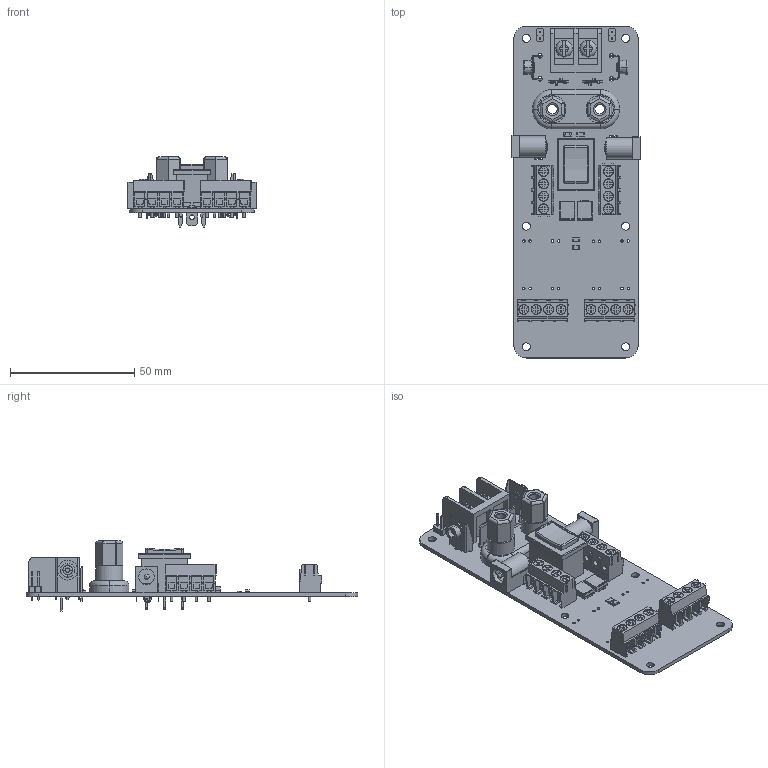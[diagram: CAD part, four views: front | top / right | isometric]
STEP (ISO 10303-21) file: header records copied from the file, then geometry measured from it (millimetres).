
FILE_DESCRIPTION(('KiCad electronic assembly'),'2;1');
FILE_NAME('Power Chunk PCB.step','2025-01-03T08:52:36',('Pcbnew'),( 'Kicad'),'Open CASCADE STEP processor 7.8','KiCad to STEP converter' ,'Unknown');
FILE_SCHEMA(('AUTOMOTIVE_DESIGN { 1 0 10303 214 1 1 1 1 }'));
Length unit declared in the file: millimetre
Products named in the file (24): Power Chunk PCB 1; LED_1206_3216Metric; BATTERY CONTACT 593 SNAP 9V PC PIN; 593; Barrier Strip 2POS 9.5mm Pitch; Barrier Strip 2POS 9.5mm Pitch v5; R_1206_3216Metric; BarrelJack_Horizontal; TerminalBlock_Phoenix_PT-1,5-4-5.0-H_1x04_P5.00mm_Horizontal; TerminalBlock_Phoenix_PT_15_4_50_H_1x04_P500mm_Horizontal; D_SMC; CONN QC TAB 0.250 SOLDER; C-1217861-1; CONN BANANA JACK POST DBL BLK RED 19.05mm PITCH; CONN BANANA JACK POST DBL BLK/RED v2; PinHeader_1x02_P2.54mm_Vertical; PinHeader_1x02_P254mm_Vertical; SPDT_Rocker_Switch; SPDT Rocker Switch v2; _autosave-Power Chunk PCB_PCB
Assembly tree (33 placements, depth 3):
  Power Chunk PCB 1
    LED_1206_3216Metric  x2
      LED_1206_3216Metric
    BATTERY CONTACT 593 SNAP 9V PC PIN  x2
      593
    Barrier Strip 2POS 9.5mm Pitch
      Barrier Strip 2POS 9.5mm Pitch v5
    R_1206_3216Metric  x2
      R_1206_3216Metric
    BarrelJack_Horizontal  x2
      BarrelJack_Horizontal
    TerminalBlock_Phoenix_PT-1,5-4-5.0-H_1x04_P5.00mm_Horizontal  x4
      TerminalBlock_Phoenix_PT_15_4_50_H_1x04_P500mm_Horizontal
    D_SMC  x2
      D_SMC
    CONN QC TAB 0.250 SOLDER  x2
      C-1217861-1
    CONN BANANA JACK POST DBL BLK RED 19.05mm PITCH
      CONN BANANA JACK POST DBL BLK/RED v2
    PinHeader_1x02_P2.54mm_Vertical  x2
      PinHeader_1x02_P254mm_Vertical
    SPDT_Rocker_Switch
      SPDT Rocker Switch v2
    _autosave-Power Chunk PCB_PCB
Bounding box: 51.9 x 133.5 x 28.2 mm (x, y, z)
Volume: 29629.1 mm3; surface area: 36398.6 mm2
Topology: 45 solids, 45 shells, 2010 faces, 5186 edges, 3334 vertices
Faces by surface type: plane 1391, cylinder 505, torus 40, bspline 34, cone 14, sphere 14, revolution 8, extrusion 4
Full cylindrical faces by diameter (mm): 1 x40, 1.3 x16, 1.4 x4, 1.5 x4, 1.77 x6, 2 x7, 2.2 x16, 3.2 x6, 3.8 x20, 3.871 x2, 4 x16, 4.1 x6, 5 x2, 6.3 x2, 6.7 x2, 11 x2
Entity records: 33078 total; most frequent: CARTESIAN_POINT 5516, DIRECTION 4926, ORIENTED_EDGE 4820, EDGE_CURVE 2410, VECTOR 1720, LINE 1718, AXIS2_PLACEMENT_3D 1601, VERTEX_POINT 1547
